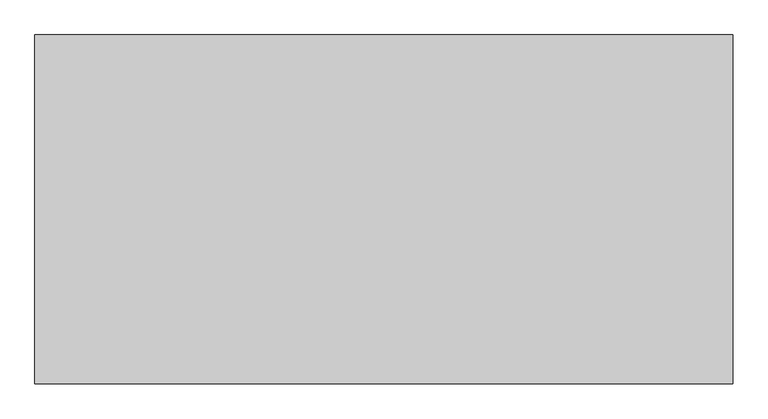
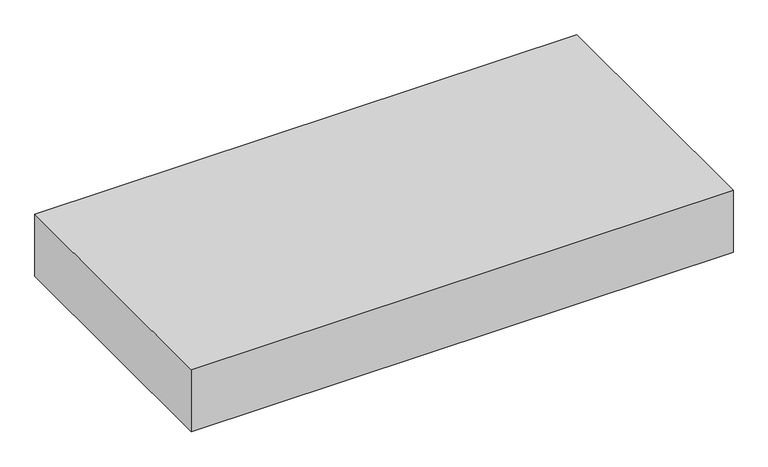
"""IFC4 building model written with IfcOpenShell, lengths in millimetres: proxy geometry, 機械基礎 : 機械基礎."""

from ifc_helpers import new_model, si_unit, origin, origin_with_axes, place, context, project, spatial, polyline, outline, extrude, source, transform, mapped, element, save


def specialty_equipment_31256d45(model_context):
    return source(origin(), model_context, "Body", "SweptSolid", [
        extrude(outline(polyline([(620.0, -310.0), (-620.0, -310.0), (-620.0, 310.0), (620.0, 310.0), (620.0, -310.0)])), origin_with_axes(), (0.0, 0.0, 1.0), 150.0),
    ])


if __name__ == "__main__":
    model = new_model("IFC4")
    model_context = context("Model", 3, world=origin())
    ifc_project = project(units=[si_unit("LENGTHUNIT", "METRE", prefix="MILLI")], contexts=[model_context])
    site = spatial("IfcSite", under=ifc_project)
    building = spatial("IfcBuilding", under=site)
    placement = place(None, origin())
    specialty_equipment_shape = specialty_equipment_31256d45(model_context)
    element("IfcBuildingElementProxy", 1, Name="機械基礎 : 機械基礎", ObjectType="機械基礎 : 機械基礎", at=placement, inside=building, context=model_context, shape_type="MappedRepresentation", body=[
        mapped(specialty_equipment_shape, transform((0.0, 0.0, 0.0), x_axis=(1.0, 0.0, 0.0), y_axis=(0.0, 1.0, 0.0), z_axis=(0.0, 0.0, 1.0))),
    ])
    save(model, "model.ifc")
